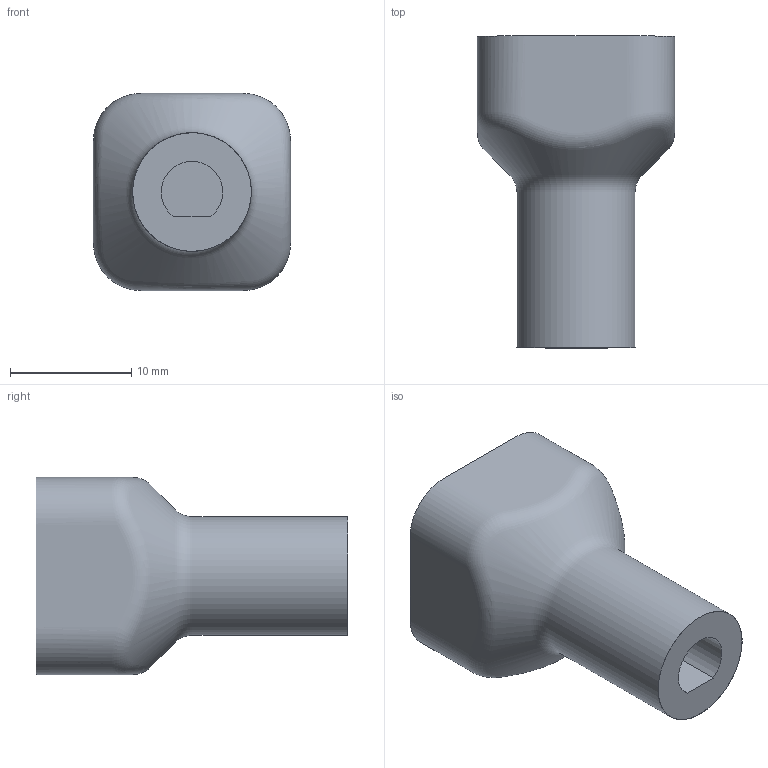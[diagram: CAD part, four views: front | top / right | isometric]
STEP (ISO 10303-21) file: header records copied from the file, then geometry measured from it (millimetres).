
FILE_DESCRIPTION(/* description */ ('STEP AP242 Edition 2','CAx-IF Rec.Pracs.---Representation and Presentation of Product Manufacturing Information (PMI)---4.0---2014-10-13','CAx-IF Rec.Pracs.---3D Tessellated Geometry---0.4---2014-09-14','2;1','CAx-IF Rec.Pracs.---User Defined Attributes---1.5---2016-08-15'),/* implementation_level */ '2;1');
FILE_NAME(/* name */ 'Assembly 1 - shifter (1)',/* time_stamp */ '2026-09-25T20:07:29Z',/* author */ (''),/* organization */ (''),/* preprocessor_version */ 'ST-DEVELOPER v20',/* originating_system */ 'ONSHAPE BY PTC INC, 1.221',/* authorisation */ ' ');
FILE_SCHEMA (('AP242_MANAGED_MODEL_BASED_3D_ENGINEERING_MIM_LF { 1 0 10303 442 3 1 4 }'));
Length unit declared in the file: metre
Products named in the file (1): shifter
Bounding box: 16.27 x 25.74 x 16.27 mm (x, y, z)
Surface area: 1954.7 mm2 (no closed solid volume)
Topology: 0 solids, 2 shells, 5 faces, 7 edges, 5 vertices
Faces by surface type: plane 3, other 1, cylinder 1
Entity records: 160 total; most frequent: CARTESIAN_POINT 31, DIRECTION 18, ORIENTED_EDGE 13, EDGE_CURVE 7, AXIS2_PLACEMENT_3D 7, VERTEX_POINT 5, EDGE_LOOP 5, FACE_BOUND 5
